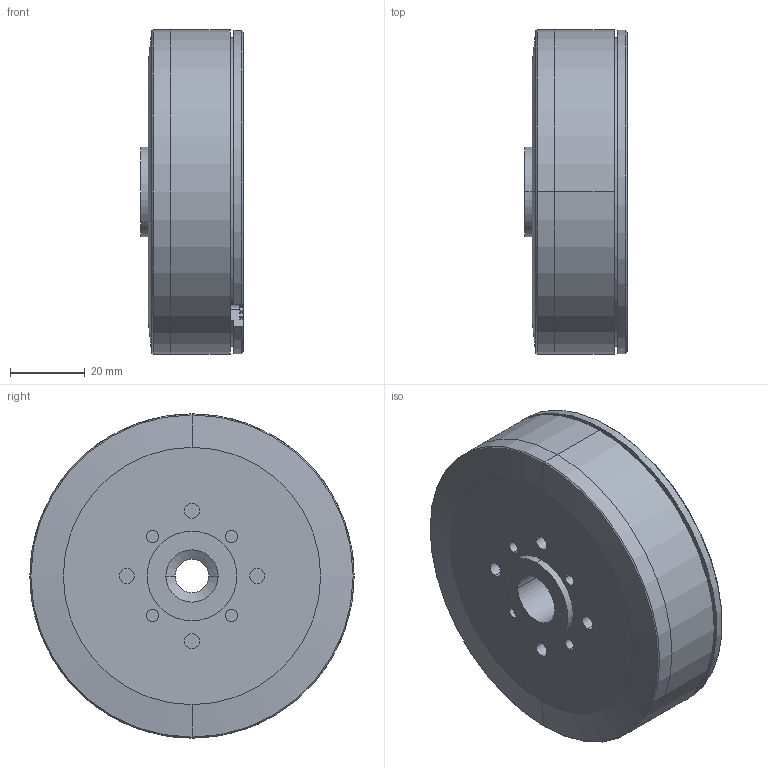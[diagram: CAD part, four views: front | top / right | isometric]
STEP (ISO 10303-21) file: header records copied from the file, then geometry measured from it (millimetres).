
FILE_DESCRIPTION((''),'2;1');
FILE_NAME('R80','2019-11-11T',('Administrator'),(''),'PRO/ENGINEER BY PARAMETRIC TECHNOLOGY CORPORATION, 2013040','PRO/ENGINEER BY PARAMETRIC TECHNOLOGY CORPORATION, 2013040','');
FILE_SCHEMA(('CONFIG_CONTROL_DESIGN'));
Length unit declared in the file: millimetre
Products named in the file (1): R80
Bounding box: 27.5 x 87 x 87 mm (x, y, z)
Volume: 143716.6 mm3; surface area: 24254.4 mm2
Topology: 1 solids, 1 shells, 111 faces, 249 edges, 156 vertices
Faces by surface type: cylinder 62, plane 32, cone 17
Entity records: 3120 total; most frequent: DIRECTION 592, CARTESIAN_POINT 516, ORIENTED_EDGE 482, AXIS2_PLACEMENT_3D 242, EDGE_CURVE 241, VERTEX_POINT 156, EDGE_LOOP 137, CIRCLE 131
